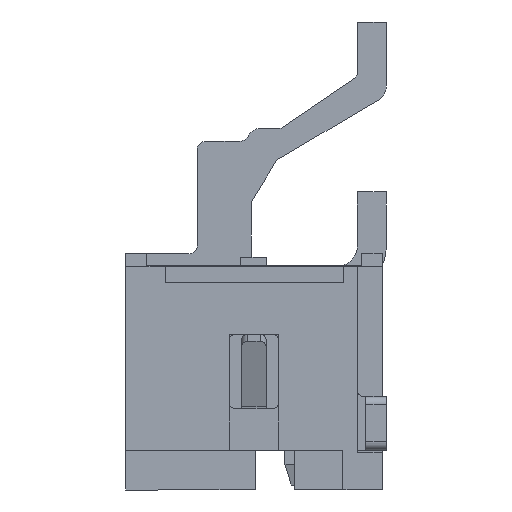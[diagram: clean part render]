
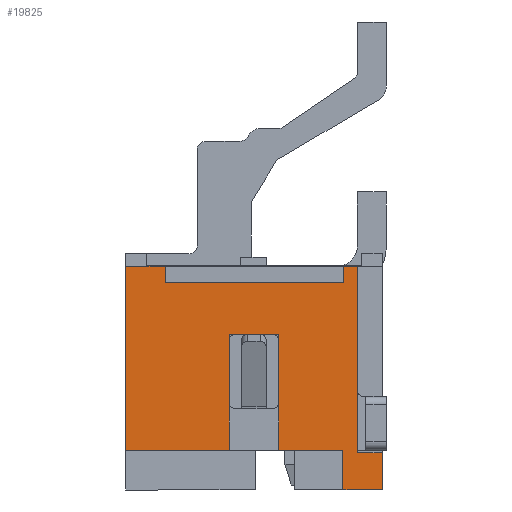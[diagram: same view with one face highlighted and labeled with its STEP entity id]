
A CAD part, left-side view. The second image highlights one B-rep face of the part: STEP entity #19825.
In plain terms, the highlighted planar face has unit normal (-1, 0, 0).
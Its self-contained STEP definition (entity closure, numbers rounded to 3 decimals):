
#19645=CARTESIAN_POINT('Vertex',(-25.55,5.24,5.4)) ;
#19648=CARTESIAN_POINT('Line Origine',(-25.55,5.24,5.2)) ;
#19652=CARTESIAN_POINT('Vertex',(-25.55,5.24,5.)) ;
#19699=CARTESIAN_POINT('Axis2P3D Location',(-25.55,0.,0.)) ;
#19704=CARTESIAN_POINT('Line Origine',(-25.55,0.475,0.)) ;
#19708=CARTESIAN_POINT('Vertex',(-25.55,0.,0.)) ;
#19710=CARTESIAN_POINT('Vertex',(-25.55,0.95,0.)) ;
#19713=CARTESIAN_POINT('Line Origine',(-25.55,0.,0.45)) ;
#19717=CARTESIAN_POINT('Vertex',(-25.55,0.,0.9)) ;
#19720=CARTESIAN_POINT('Line Origine',(-25.55,0.3,0.9)) ;
#19724=CARTESIAN_POINT('Vertex',(-25.55,0.6,0.9)) ;
#19727=CARTESIAN_POINT('Line Origine',(-25.55,0.6,3.15)) ;
#19731=CARTESIAN_POINT('Vertex',(-25.55,0.6,5.4)) ;
#19734=CARTESIAN_POINT('Line Origine',(-25.55,0.77,5.4)) ;
#19738=CARTESIAN_POINT('Vertex',(-25.55,0.94,5.4)) ;
#19741=CARTESIAN_POINT('Line Origine',(-25.55,0.94,5.2)) ;
#19745=CARTESIAN_POINT('Vertex',(-25.55,0.94,5.)) ;
#19748=CARTESIAN_POINT('Line Origine',(-25.55,3.09,5.)) ;
#19753=CARTESIAN_POINT('Line Origine',(-25.55,5.72,5.4)) ;
#19757=CARTESIAN_POINT('Vertex',(-25.55,6.2,5.4)) ;
#19760=CARTESIAN_POINT('Line Origine',(-25.55,6.2,3.18)) ;
#19764=CARTESIAN_POINT('Vertex',(-25.55,6.2,0.96)) ;
#19767=CARTESIAN_POINT('Line Origine',(-25.55,4.95,0.96)) ;
#19771=CARTESIAN_POINT('Vertex',(-25.55,3.7,0.96)) ;
#19774=CARTESIAN_POINT('Line Origine',(-25.55,3.7,2.36)) ;
#19778=CARTESIAN_POINT('Vertex',(-25.55,3.7,3.76)) ;
#19781=CARTESIAN_POINT('Line Origine',(-25.55,3.1,3.76)) ;
#19785=CARTESIAN_POINT('Vertex',(-25.55,2.5,3.76)) ;
#19788=CARTESIAN_POINT('Line Origine',(-25.55,2.5,2.36)) ;
#19792=CARTESIAN_POINT('Vertex',(-25.55,2.5,0.96)) ;
#19795=CARTESIAN_POINT('Line Origine',(-25.55,1.725,0.96)) ;
#19799=CARTESIAN_POINT('Vertex',(-25.55,0.95,0.96)) ;
#19802=CARTESIAN_POINT('Line Origine',(-25.55,0.95,0.48)) ;
#19649=DIRECTION('Vector Direction',(0.,0.,1.)) ;
#19700=DIRECTION('Axis2P3D Direction',(1.,0.,0.)) ;
#19701=DIRECTION('Axis2P3D XDirection',(0.,1.,0.)) ;
#19705=DIRECTION('Vector Direction',(0.,1.,0.)) ;
#19714=DIRECTION('Vector Direction',(0.,0.,-1.)) ;
#19721=DIRECTION('Vector Direction',(0.,-1.,0.)) ;
#19728=DIRECTION('Vector Direction',(0.,0.,1.)) ;
#19735=DIRECTION('Vector Direction',(0.,-1.,0.)) ;
#19742=DIRECTION('Vector Direction',(0.,0.,-1.)) ;
#19749=DIRECTION('Vector Direction',(0.,-1.,0.)) ;
#19754=DIRECTION('Vector Direction',(0.,-1.,0.)) ;
#19761=DIRECTION('Vector Direction',(0.,0.,1.)) ;
#19768=DIRECTION('Vector Direction',(0.,1.,0.)) ;
#19775=DIRECTION('Vector Direction',(0.,0.,-1.)) ;
#19782=DIRECTION('Vector Direction',(0.,1.,0.)) ;
#19789=DIRECTION('Vector Direction',(0.,0.,1.)) ;
#19796=DIRECTION('Vector Direction',(0.,1.,0.)) ;
#19803=DIRECTION('Vector Direction',(0.,0.,1.)) ;
#19702=AXIS2_PLACEMENT_3D('Plane Axis2P3D',#19699,#19700,#19701) ;
#19808=ORIENTED_EDGE('',*,*,#19712,.F.) ;
#19809=ORIENTED_EDGE('',*,*,#19719,.F.) ;
#19810=ORIENTED_EDGE('',*,*,#19726,.T.) ;
#19811=ORIENTED_EDGE('',*,*,#19733,.T.) ;
#19812=ORIENTED_EDGE('',*,*,#19740,.F.) ;
#19813=ORIENTED_EDGE('',*,*,#19747,.T.) ;
#19814=ORIENTED_EDGE('',*,*,#19752,.T.) ;
#19815=ORIENTED_EDGE('',*,*,#19654,.T.) ;
#19816=ORIENTED_EDGE('',*,*,#19759,.F.) ;
#19817=ORIENTED_EDGE('',*,*,#19766,.F.) ;
#19818=ORIENTED_EDGE('',*,*,#19773,.T.) ;
#19819=ORIENTED_EDGE('',*,*,#19780,.T.) ;
#19820=ORIENTED_EDGE('',*,*,#19787,.T.) ;
#19821=ORIENTED_EDGE('',*,*,#19794,.T.) ;
#19822=ORIENTED_EDGE('',*,*,#19801,.T.) ;
#19823=ORIENTED_EDGE('',*,*,#19806,.T.) ;
#19650=VECTOR('Line Direction',#19649,1.) ;
#19706=VECTOR('Line Direction',#19705,1.) ;
#19715=VECTOR('Line Direction',#19714,1.) ;
#19722=VECTOR('Line Direction',#19721,1.) ;
#19729=VECTOR('Line Direction',#19728,1.) ;
#19736=VECTOR('Line Direction',#19735,1.) ;
#19743=VECTOR('Line Direction',#19742,1.) ;
#19750=VECTOR('Line Direction',#19749,1.) ;
#19755=VECTOR('Line Direction',#19754,1.) ;
#19762=VECTOR('Line Direction',#19761,1.) ;
#19769=VECTOR('Line Direction',#19768,1.) ;
#19776=VECTOR('Line Direction',#19775,1.) ;
#19783=VECTOR('Line Direction',#19782,1.) ;
#19790=VECTOR('Line Direction',#19789,1.) ;
#19797=VECTOR('Line Direction',#19796,1.) ;
#19804=VECTOR('Line Direction',#19803,1.) ;
#19825=ADVANCED_FACE('\X2\96F64EF651E04F554F53\X0\',(#19824),#19703,.F.) ;
#19654=EDGE_CURVE('',#19653,#19646,#19651,.T.) ;
#19712=EDGE_CURVE('',#19709,#19711,#19707,.T.) ;
#19719=EDGE_CURVE('',#19718,#19709,#19716,.T.) ;
#19726=EDGE_CURVE('',#19718,#19725,#19723,.F.) ;
#19733=EDGE_CURVE('',#19725,#19732,#19730,.T.) ;
#19740=EDGE_CURVE('',#19739,#19732,#19737,.T.) ;
#19747=EDGE_CURVE('',#19739,#19746,#19744,.T.) ;
#19752=EDGE_CURVE('',#19746,#19653,#19751,.F.) ;
#19759=EDGE_CURVE('',#19758,#19646,#19756,.T.) ;
#19766=EDGE_CURVE('',#19765,#19758,#19763,.T.) ;
#19773=EDGE_CURVE('',#19765,#19772,#19770,.F.) ;
#19780=EDGE_CURVE('',#19772,#19779,#19777,.F.) ;
#19787=EDGE_CURVE('',#19779,#19786,#19784,.F.) ;
#19794=EDGE_CURVE('',#19786,#19793,#19791,.F.) ;
#19801=EDGE_CURVE('',#19793,#19800,#19798,.F.) ;
#19806=EDGE_CURVE('',#19800,#19711,#19805,.F.) ;
#19807=EDGE_LOOP('',(#19808,#19809,#19810,#19811,#19812,#19813,#19814,#19815,#19816,#19817,#19818,#19819,#19820,#19821,#19822,#19823)) ;
#19824=FACE_OUTER_BOUND('',#19807,.T.) ;
#19651=LINE('Line',#19648,#19650) ;
#19707=LINE('Line',#19704,#19706) ;
#19716=LINE('Line',#19713,#19715) ;
#19723=LINE('Line',#19720,#19722) ;
#19730=LINE('Line',#19727,#19729) ;
#19737=LINE('Line',#19734,#19736) ;
#19744=LINE('Line',#19741,#19743) ;
#19751=LINE('Line',#19748,#19750) ;
#19756=LINE('Line',#19753,#19755) ;
#19763=LINE('Line',#19760,#19762) ;
#19770=LINE('Line',#19767,#19769) ;
#19777=LINE('Line',#19774,#19776) ;
#19784=LINE('Line',#19781,#19783) ;
#19791=LINE('Line',#19788,#19790) ;
#19798=LINE('Line',#19795,#19797) ;
#19805=LINE('Line',#19802,#19804) ;
#19703=PLANE('Plane',#19702) ;
#19646=VERTEX_POINT('',#19645) ;
#19653=VERTEX_POINT('',#19652) ;
#19709=VERTEX_POINT('',#19708) ;
#19711=VERTEX_POINT('',#19710) ;
#19718=VERTEX_POINT('',#19717) ;
#19725=VERTEX_POINT('',#19724) ;
#19732=VERTEX_POINT('',#19731) ;
#19739=VERTEX_POINT('',#19738) ;
#19746=VERTEX_POINT('',#19745) ;
#19758=VERTEX_POINT('',#19757) ;
#19765=VERTEX_POINT('',#19764) ;
#19772=VERTEX_POINT('',#19771) ;
#19779=VERTEX_POINT('',#19778) ;
#19786=VERTEX_POINT('',#19785) ;
#19793=VERTEX_POINT('',#19792) ;
#19800=VERTEX_POINT('',#19799) ;
